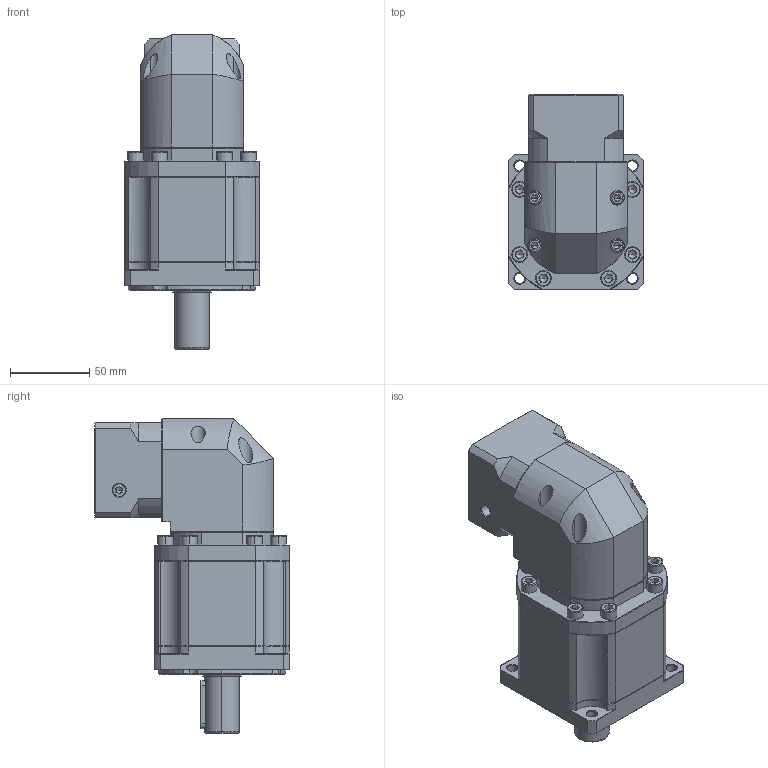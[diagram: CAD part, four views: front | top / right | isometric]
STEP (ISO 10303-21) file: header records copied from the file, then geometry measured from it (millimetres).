
FILE_DESCRIPTION (( 'STEP AP214' ), '1' );
FILE_NAME ('ZBR090-D22-L3-P2-8-38.1-47.14x47.14-M4.step', '2023-08-19T04:00:37', ( '' ), ( '' ), 'SwSTEP 2.0', 'SolidWorks 2016', '' );
FILE_SCHEMA (( 'AUTOMOTIVE_DESIGN' ));
Length unit declared in the file: millimetre
Products named in the file (1): ZBR090-D22-L3-P2-8-38.1-47.14x47.14-M4
Bounding box: 85 x 122.7 x 198 mm (x, y, z)
Volume: 928468.6 mm3; surface area: 106810.7 mm2
Topology: 5 solids, 5 shells, 2432 faces, 6464 edges, 4135 vertices
Faces by surface type: plane 1179, cylinder 439, bspline 426, cone 368, torus 20
Entity records: 127468 total; most frequent: CARTESIAN_POINT 43555, ORIENTED_EDGE 12836, DIRECTION 10351, EDGE_CURVE 6418, VERTEX_POINT 4135, LINE 4015, VECTOR 4015, AXIS2_PLACEMENT_3D 3168
